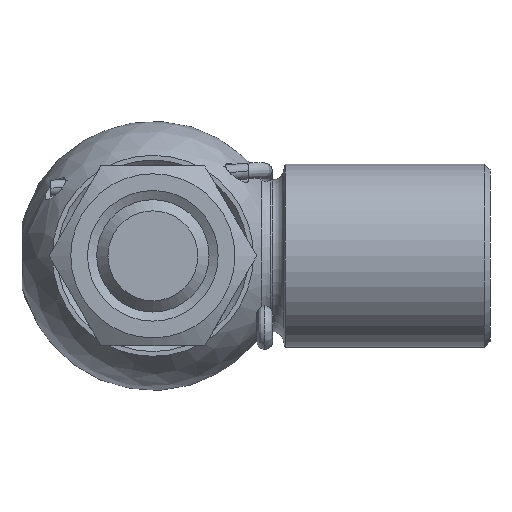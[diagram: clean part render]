
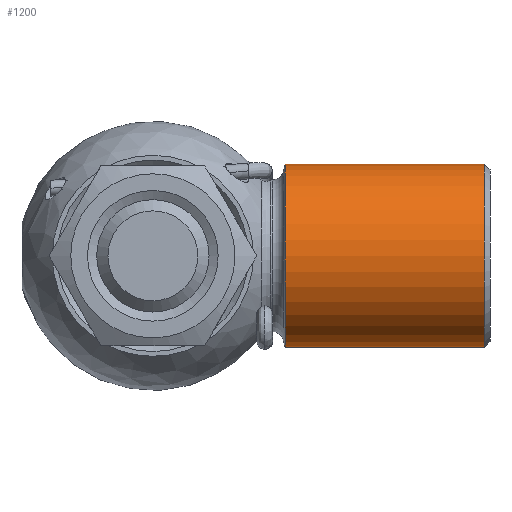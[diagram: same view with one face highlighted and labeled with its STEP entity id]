
A CAD part, front view. The second image highlights one B-rep face of the part: STEP entity #1200.
In plain terms, the highlighted cylindrical face has radius 8.15 mm (diameter 16.3 mm), a full revolution.
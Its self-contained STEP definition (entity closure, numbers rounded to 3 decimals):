
#64=CYLINDRICAL_SURFACE('',#1327,8.15);
#440=ORIENTED_EDGE('',*,*,#695,.F.);
#441=ORIENTED_EDGE('',*,*,#694,.T.);
#694=EDGE_CURVE('',#832,#832,#890,.T.);
#695=EDGE_CURVE('',#833,#833,#891,.T.);
#832=VERTEX_POINT('',#2841);
#833=VERTEX_POINT('',#2844);
#890=CIRCLE('',#1326,8.15);
#891=CIRCLE('',#1328,8.15);
#977=EDGE_LOOP('',(#440));
#978=EDGE_LOOP('',(#441));
#1086=FACE_BOUND('',#977,.T.);
#1087=FACE_BOUND('',#978,.T.);
#1200=ADVANCED_FACE('',(#1086,#1087),#64,.T.);
#1326=AXIS2_PLACEMENT_3D('',#2840,#1573,#1574);
#1327=AXIS2_PLACEMENT_3D('',#2842,#1575,#1576);
#1328=AXIS2_PLACEMENT_3D('',#2843,#1577,#1578);
#1573=DIRECTION('',(-1.,0.,0.));
#1574=DIRECTION('',(0.,0.,1.));
#1575=DIRECTION('',(-1.,0.,0.));
#1576=DIRECTION('',(0.,0.,1.));
#1577=DIRECTION('',(-1.,0.,0.));
#1578=DIRECTION('',(0.,1.,0.));
#2840=CARTESIAN_POINT('',(-0.5,0.002,0.));
#2841=CARTESIAN_POINT('',(-0.5,0.002,8.15));
#2842=CARTESIAN_POINT('',(-6.612,0.002,0.));
#2843=CARTESIAN_POINT('',(-18.225,0.002,0.));
#2844=CARTESIAN_POINT('',(-18.225,8.152,0.));
